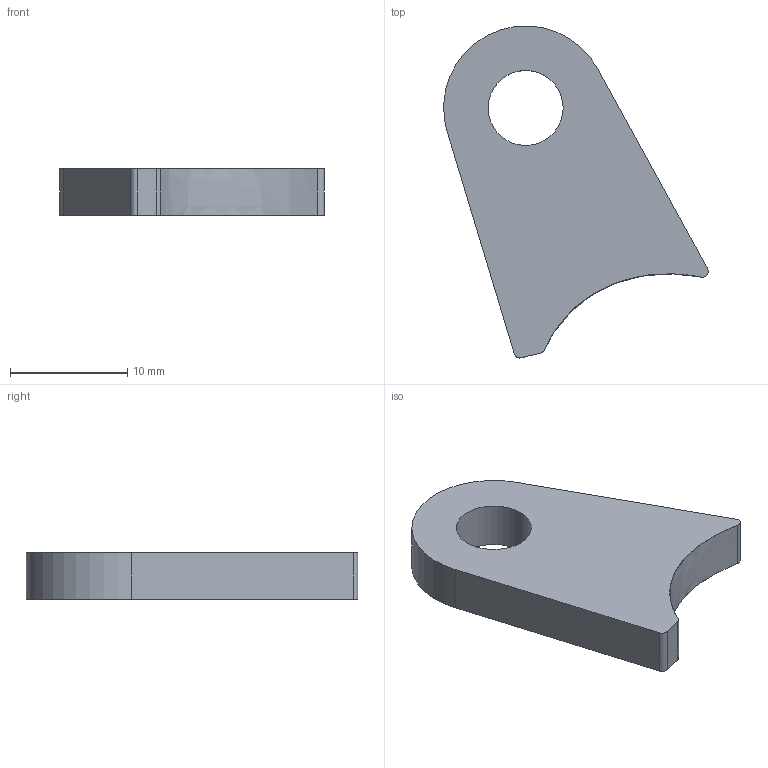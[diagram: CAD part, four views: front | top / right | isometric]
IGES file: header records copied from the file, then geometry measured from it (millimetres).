
Start section: START RECORD GO HERE.
Global section: file name: 20M_RU_FU.igs; native system: IBM CATIA IGES - CATIA Version 5 Release 19 ; preprocessor: CATIA Version 5 Release 19 ; author: thilv; organization: PREDATOR; date: 20191217.131642; units: millimetre
Bounding box: 22.58 x 28.33 x 4 mm (x, y, z)
Surface area: 1061.8 mm2 (no closed solid volume)
Topology: 0 solids, 0 shells, 12 faces, 60 edges, 62 vertices
Faces by surface type: revolution 6, plane 4, extrusion 2
